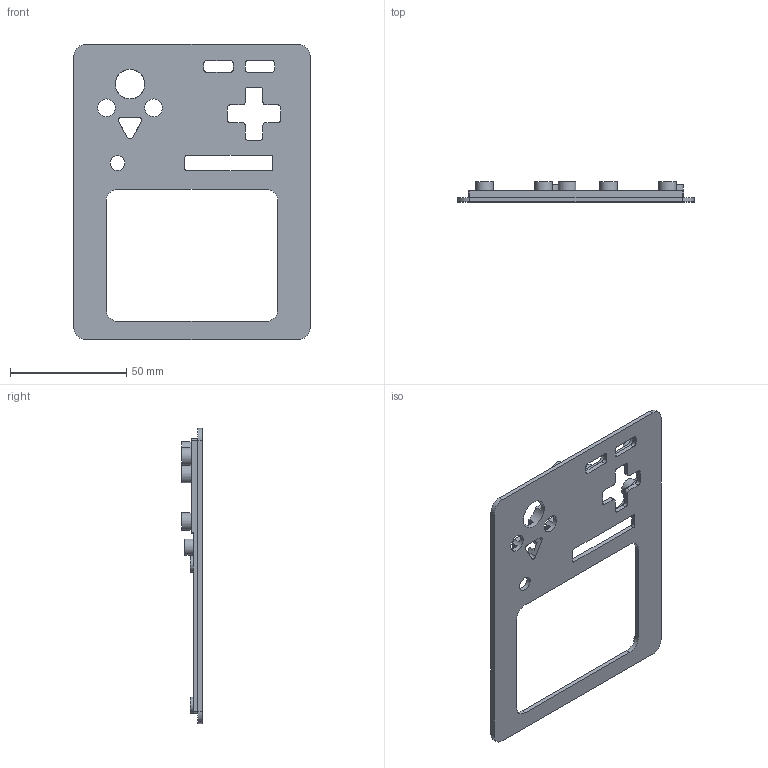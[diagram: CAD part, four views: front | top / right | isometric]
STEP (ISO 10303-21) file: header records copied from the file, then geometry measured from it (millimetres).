
FILE_DESCRIPTION (( 'STEP AP203' ), '1' );
FILE_NAME ('Front.step', '2015-03-14T23:35:47', ( '' ), ( '' ), 'SwSTEP 2.0', 'SolidWorks 2013', '' );
FILE_SCHEMA (( 'CONFIG_CONTROL_DESIGN' ));
Length unit declared in the file: inch
Products named in the file (1): Front
Bounding box: 101.6 x 8.81 x 127 mm (x, y, z)
Volume: 26348.4 mm3; surface area: 22349.1 mm2
Topology: 1 solids, 1 shells, 268 faces, 742 edges, 489 vertices
Faces by surface type: plane 154, cylinder 99, cone 15
Full cylindrical faces by diameter (mm): 2.946 x15, 6.35 x1, 6.985 x6, 7.62 x11, 12.7 x1
Entity records: 8175 total; most frequent: DIRECTION 1422, CARTESIAN_POINT 1391, ORIENTED_EDGE 1326, EDGE_CURVE 663, AXIS2_PLACEMENT_3D 490, VERTEX_POINT 459, VECTOR 442, LINE 442
